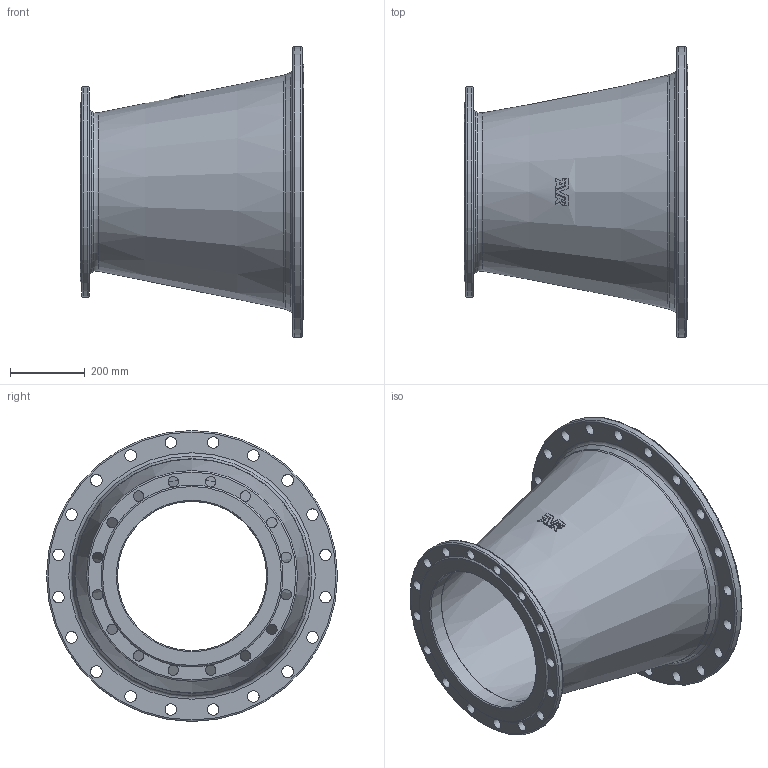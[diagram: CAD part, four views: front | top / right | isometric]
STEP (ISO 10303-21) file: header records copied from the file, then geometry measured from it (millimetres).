
FILE_DESCRIPTION (( 'STEP AP203' ), '1' );
FILE_NAME ('O_712_2210_DN600_DN400_0X_REV01.step', '2024-08-08T09:42:40', ( '' ), ( '' ), 'SwSTEP 2.0', 'SolidWorks 2022', '' );
FILE_SCHEMA (( 'CONFIG_CONTROL_DESIGN' ));
Length unit declared in the file: millimetre
Products named in the file (1): O_712_2210_DN600_DN400_0X_REV01
Bounding box: 600 x 780 x 780 mm (x, y, z)
Volume: 18711490.9 mm3; surface area: 2561886.4 mm2
Topology: 1 solids, 1 shells, 105 faces, 341 edges, 230 vertices
Faces by surface type: cylinder 42, plane 41, cone 12, torus 10
Full cylindrical faces by diameter (mm): 28 x16, 31 x20, 400 x1, 565 x1, 600 x1, 780 x1
Entity records: 3606 total; most frequent: CARTESIAN_POINT 897, DIRECTION 543, ORIENTED_EDGE 484, AXIS2_PLACEMENT_3D 253, EDGE_CURVE 242, EDGE_LOOP 229, VERTEX_POINT 189, FACE_OUTER_BOUND 155
